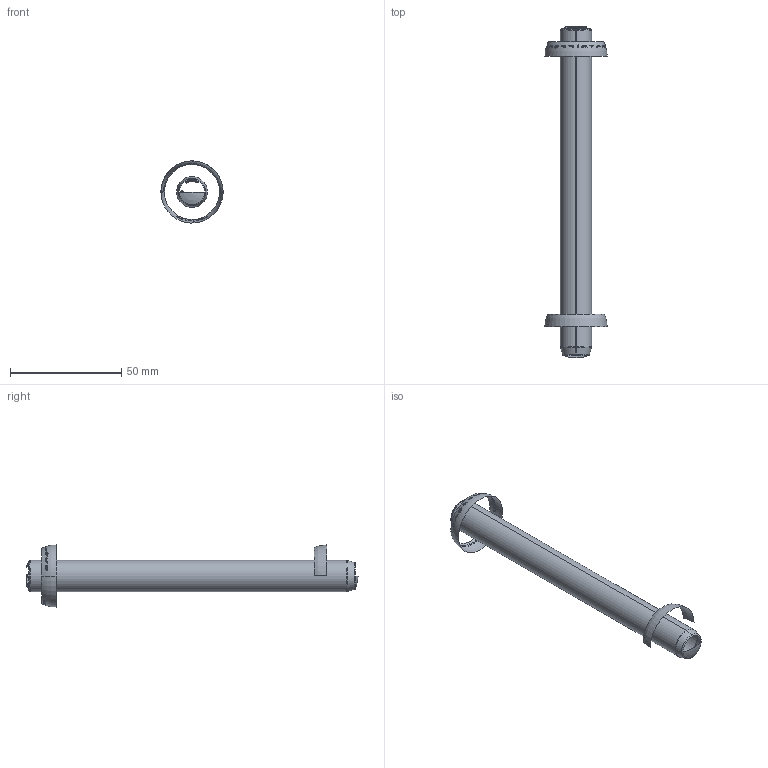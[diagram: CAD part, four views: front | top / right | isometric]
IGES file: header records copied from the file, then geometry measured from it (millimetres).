
Start section: SolidWorks IGES file using analytic representation for surfaces
Global section: file name: D:\Cleonir_arquivos\MT_15_07\Pinos Guia DIN 6325 ISO 8734 sem rosca\PG614150.igs; native system: SolidWorks 2013; preprocessor: SolidWorks 2013; author: Cleonir; date: 130718.162008; units: millimetre
Bounding box: 28 x 149.55 x 27.98 mm (x, y, z)
Surface area: 7457.3 mm2 (no closed solid volume)
Topology: 0 solids, 0 shells, 286 faces, 3048 edges, 3047 vertices
Faces by surface type: bspline 260, revolution 26
